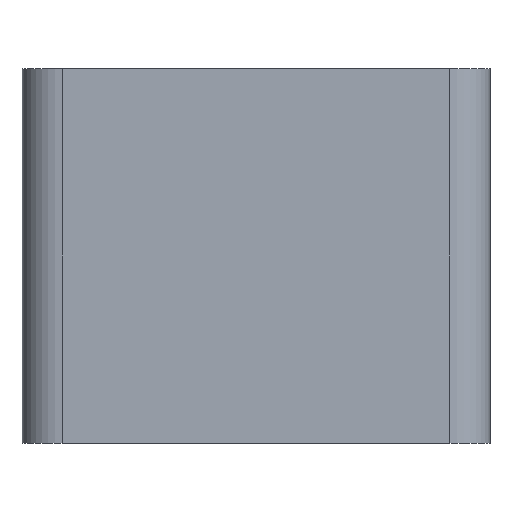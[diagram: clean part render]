
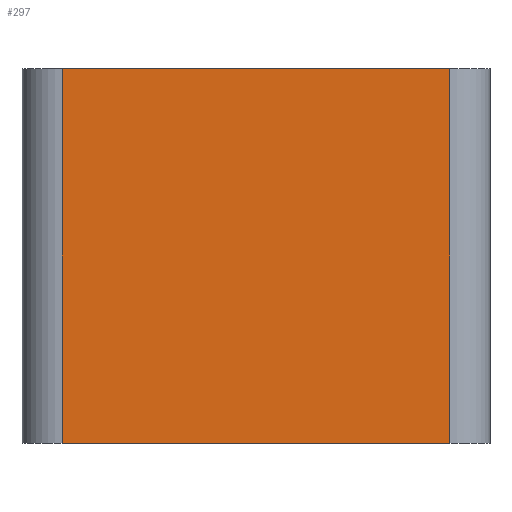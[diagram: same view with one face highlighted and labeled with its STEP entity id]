
A CAD part, front view. The second image highlights one B-rep face of the part: STEP entity #297.
In plain terms, the highlighted planar face has unit normal (0, -1, 0).
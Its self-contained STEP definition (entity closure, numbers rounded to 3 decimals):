
#168=FACE_OUTER_BOUND('',#1188,.T.);
#297=ADVANCED_FACE('',(#168),#456,.T.);
#456=PLANE('',#2841);
#563=LINE('',#4139,#697);
#564=LINE('',#4143,#698);
#565=LINE('',#4146,#699);
#566=LINE('',#4147,#700);
#697=VECTOR('',#3025,1.);
#698=VECTOR('',#3030,1.);
#699=VECTOR('',#3031,1.);
#700=VECTOR('',#3032,1.);
#1188=EDGE_LOOP('',(#1484,#1485,#1486,#1487));
#1484=ORIENTED_EDGE('',*,*,#2514,.T.);
#1485=ORIENTED_EDGE('',*,*,#2515,.T.);
#1486=ORIENTED_EDGE('',*,*,#2512,.T.);
#1487=ORIENTED_EDGE('',*,*,#2516,.T.);
#2246=VERTEX_POINT('',#4138);
#2247=VERTEX_POINT('',#4140);
#2248=VERTEX_POINT('',#4144);
#2249=VERTEX_POINT('',#4145);
#2512=EDGE_CURVE('',#2247,#2246,#563,.T.);
#2514=EDGE_CURVE('',#2248,#2249,#564,.T.);
#2515=EDGE_CURVE('',#2249,#2247,#565,.T.);
#2516=EDGE_CURVE('',#2246,#2248,#566,.T.);
#2841=AXIS2_PLACEMENT_3D('',#4148,#3033,#3034);
#3025=DIRECTION('',(-1.,0.,0.));
#3030=DIRECTION('',(1.,0.,0.));
#3031=DIRECTION('',(0.,0.,1.));
#3032=DIRECTION('',(0.,0.,-1.));
#3033=DIRECTION('',(0.,-1.,0.));
#3034=DIRECTION('',(0.,0.,-1.));
#4138=CARTESIAN_POINT('',(3.,0.,28.));
#4139=CARTESIAN_POINT('',(17.5,0.,28.));
#4140=CARTESIAN_POINT('',(32.,0.,28.));
#4143=CARTESIAN_POINT('',(17.5,0.,0.));
#4144=CARTESIAN_POINT('',(3.,0.,0.));
#4145=CARTESIAN_POINT('',(32.,0.,0.));
#4146=CARTESIAN_POINT('',(32.,0.,0.));
#4147=CARTESIAN_POINT('',(3.,0.,0.));
#4148=CARTESIAN_POINT('',(17.5,0.,0.));
